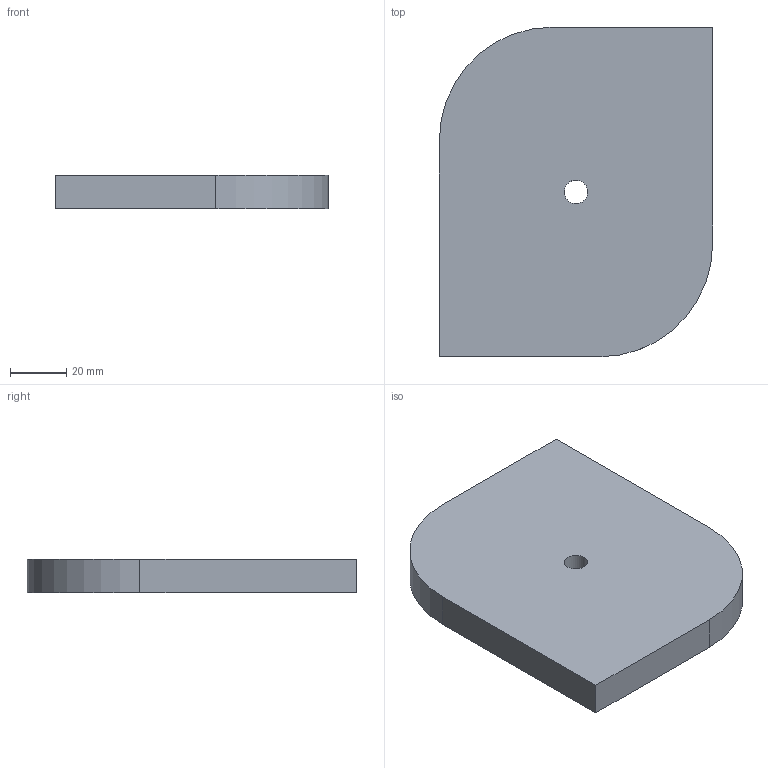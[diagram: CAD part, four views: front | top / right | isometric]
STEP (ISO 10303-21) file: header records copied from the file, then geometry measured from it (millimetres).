
FILE_DESCRIPTION(('CATIA V5 STEP Exchange'),'2;1');
FILE_NAME('C:\_Andres\UNIVERSIDAD\IQS\ASIGNATURAS\DAO\EXF\EXF-15161c\1original\Ferrer_Costa_Ej01-plano_v7.stp','2016-03-04T14:59:44+00:00',('none'),('none'),'CATIA Version 5 Release 20 SP 1 (IN-10)','CATIA V5 STEP AP203','none');
FILE_SCHEMA(('CONFIG_CONTROL_DESIGN'));
Length unit declared in the file: millimetre
Products named in the file (1): Ferrer_Costa_Ej01-plano_v7
Bounding box: 97 x 117 x 12 mm (x, y, z)
Volume: 127286.1 mm3; surface area: 26254.1 mm2
Topology: 1 solids, 1 shells, 10 faces, 24 edges, 16 vertices
Faces by surface type: plane 6, cylinder 4
Entity records: 333 total; most frequent: CARTESIAN_POINT 51, ORIENTED_EDGE 48, DIRECTION 44, EDGE_CURVE 24, AXIS2_PLACEMENT_3D 19, VECTOR 16, LINE 16, VERTEX_POINT 16
